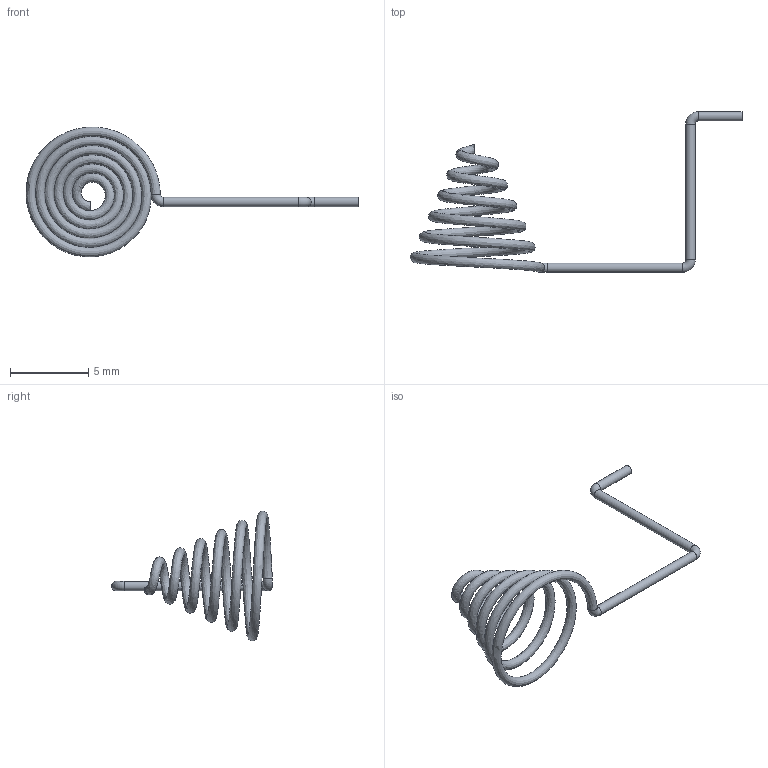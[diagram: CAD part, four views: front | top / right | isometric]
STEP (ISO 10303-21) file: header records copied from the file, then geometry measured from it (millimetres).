
FILE_DESCRIPTION(/* description */ (''),/* implementation_level */ '2;1');
FILE_NAME(/* name */ 'C:/Users/RileyStevenson/RileyS/Battery Coils/Negative Coil - Simple Version v2.step',/* time_stamp */ '2022-02-18T15:24:49-06:00',/* author */ (''),/* organization */ (''),/* preprocessor_version */ 'ST-DEVELOPER v18.1',/* originating_system */ 'Autodesk Translation Framework v10.13.0.1454',/* authorisation */ '');
FILE_SCHEMA (('AUTOMOTIVE_DESIGN { 1 0 10303 214 3 1 1 }'));
Length unit declared in the file: millimetre
Products named in the file (1): Negative Coil - Simple Version
Bounding box: 21.26 x 10.3 x 8.3 mm (x, y, z)
Volume: 31.5 mm3; surface area: 210.9 mm2
Topology: 1 solids, 1 shells, 9 faces, 20 edges, 13 vertices
Faces by surface type: cylinder 3, torus 3, plane 2, bspline 1
Full cylindrical faces by diameter (mm): 0.6 x3
Entity records: 888 total; most frequent: CARTESIAN_POINT 641, DIRECTION 53, ORIENTED_EDGE 40, AXIS2_PLACEMENT_3D 25, EDGE_CURVE 20, CIRCLE 16, VERTEX_POINT 13, FACE_OUTER_BOUND 9
